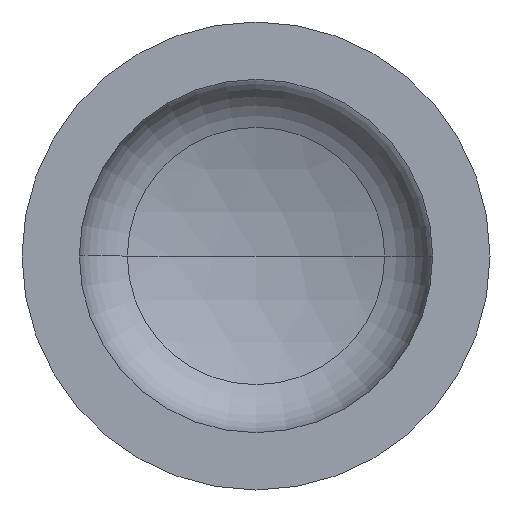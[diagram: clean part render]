
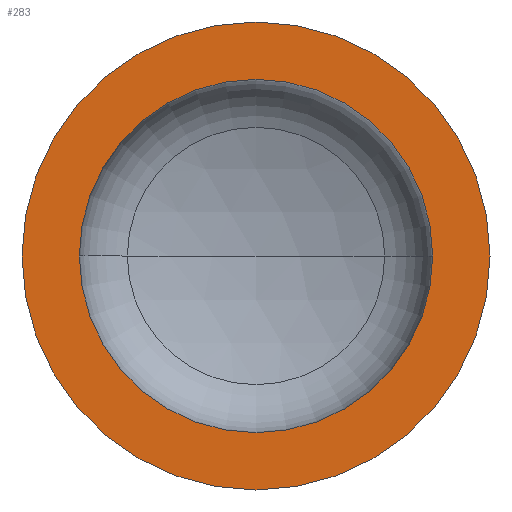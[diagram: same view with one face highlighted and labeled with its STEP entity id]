
A CAD part, front view. The second image highlights one B-rep face of the part: STEP entity #283.
In plain terms, the highlighted planar face has unit normal (0, -1, 0).
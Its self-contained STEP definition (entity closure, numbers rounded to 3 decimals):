
#7 = VERTEX_POINT ( 'NONE', #255 ) ;
#9 = AXIS2_PLACEMENT_3D ( 'NONE', #240, #406, #195 ) ;
#11 = EDGE_LOOP ( 'NONE', ( #42, #114 ) ) ;
#15 = AXIS2_PLACEMENT_3D ( 'NONE', #30, #166, #279 ) ;
#29 = AXIS2_PLACEMENT_3D ( 'NONE', #103, #389, #398 ) ;
#30 = CARTESIAN_POINT ( 'NONE',  ( 0., 0., 0. ) ) ;
#34 = VERTEX_POINT ( 'NONE', #360 ) ;
#42 = ORIENTED_EDGE ( 'NONE', *, *, #387, .T. ) ;
#62 = EDGE_LOOP ( 'NONE', ( #127, #257 ) ) ;
#75 = AXIS2_PLACEMENT_3D ( 'NONE', #371, #374, #313 ) ;
#78 = AXIS2_PLACEMENT_3D ( 'NONE', #342, #349, #348 ) ;
#99 = VERTEX_POINT ( 'NONE', #330 ) ;
#101 = EDGE_CURVE ( 'NONE', #34, #99, #367, .T. ) ;
#103 = CARTESIAN_POINT ( 'NONE',  ( -400., 0., 0. ) ) ;
#104 = EDGE_CURVE ( 'NONE', #7, #133, #151, .T. ) ;
#114 = ORIENTED_EDGE ( 'NONE', *, *, #101, .T. ) ;
#127 = ORIENTED_EDGE ( 'NONE', *, *, #104, .F. ) ;
#133 = VERTEX_POINT ( 'NONE', #213 ) ;
#149 = FACE_OUTER_BOUND ( 'NONE', #11, .T. ) ;
#151 = CIRCLE ( 'NONE', #75, 302. ) ;
#166 = DIRECTION ( 'NONE',  ( 0., -1., 0. ) ) ;
#182 = CIRCLE ( 'NONE', #9, 400. ) ;
#188 = PLANE ( 'NONE',  #29 ) ;
#195 = DIRECTION ( 'NONE',  ( 1., 0., 0. ) ) ;
#213 = CARTESIAN_POINT ( 'NONE',  ( -302., 0., 0. ) ) ;
#240 = CARTESIAN_POINT ( 'NONE',  ( 0., 0., 0. ) ) ;
#255 = CARTESIAN_POINT ( 'NONE',  ( 302., 0., 0. ) ) ;
#257 = ORIENTED_EDGE ( 'NONE', *, *, #351, .F. ) ;
#270 = FACE_BOUND ( 'NONE', #62, .T. ) ;
#279 = DIRECTION ( 'NONE',  ( 1., 0., 0. ) ) ;
#283 = ADVANCED_FACE ( 'NONE', ( #270, #149 ), #188, .F. ) ;
#313 = DIRECTION ( 'NONE',  ( 1., 0., 0. ) ) ;
#330 = CARTESIAN_POINT ( 'NONE',  ( 400., 0., 0. ) ) ;
#342 = CARTESIAN_POINT ( 'NONE',  ( 0., 0., 0. ) ) ;
#348 = DIRECTION ( 'NONE',  ( 1., 0., 0. ) ) ;
#349 = DIRECTION ( 'NONE',  ( 0., -1., 0. ) ) ;
#351 = EDGE_CURVE ( 'NONE', #133, #7, #381, .T. ) ;
#360 = CARTESIAN_POINT ( 'NONE',  ( -400., 0., 0. ) ) ;
#367 = CIRCLE ( 'NONE', #78, 400. ) ;
#371 = CARTESIAN_POINT ( 'NONE',  ( 0., 0., 0. ) ) ;
#374 = DIRECTION ( 'NONE',  ( 0., -1., 0. ) ) ;
#381 = CIRCLE ( 'NONE', #15, 302. ) ;
#387 = EDGE_CURVE ( 'NONE', #99, #34, #182, .T. ) ;
#389 = DIRECTION ( 'NONE',  ( 0., 1., 0. ) ) ;
#398 = DIRECTION ( 'NONE',  ( -1., 0., 0. ) ) ;
#406 = DIRECTION ( 'NONE',  ( 0., -1., 0. ) ) ;
